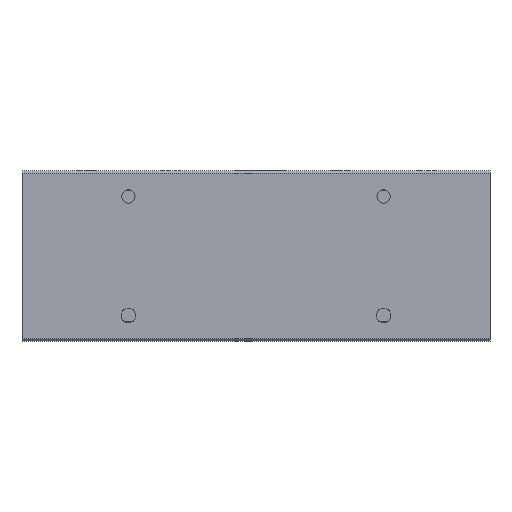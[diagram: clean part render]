
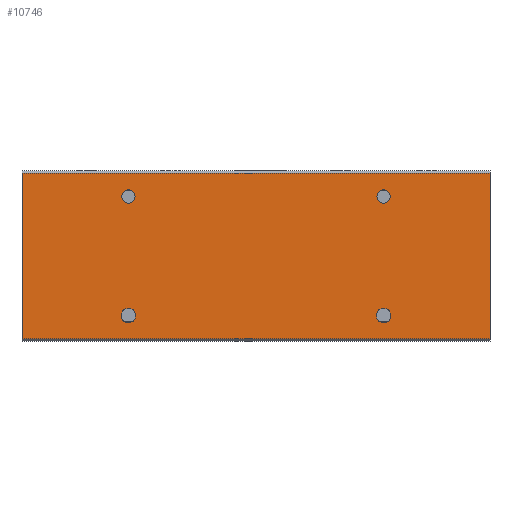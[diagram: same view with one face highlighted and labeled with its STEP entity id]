
A CAD part, front view. The second image highlights one B-rep face of the part: STEP entity #10746.
In plain terms, the highlighted planar face has unit normal (0, -1, 0).
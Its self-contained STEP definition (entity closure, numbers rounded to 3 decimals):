
#393=CIRCLE('',#11386,0.857);
#394=CIRCLE('',#11391,0.857);
#402=CIRCLE('',#11405,0.784);
#403=CIRCLE('',#11408,0.784);
#1547=ORIENTED_EDGE('',*,*,#4412,.F.);
#1548=ORIENTED_EDGE('',*,*,#4410,.F.);
#1549=ORIENTED_EDGE('',*,*,#4393,.F.);
#1550=ORIENTED_EDGE('',*,*,#4389,.F.);
#1551=ORIENTED_EDGE('',*,*,#4366,.T.);
#1552=ORIENTED_EDGE('',*,*,#4805,.F.);
#1553=ORIENTED_EDGE('',*,*,#4349,.F.);
#1554=ORIENTED_EDGE('',*,*,#4804,.T.);
#4349=EDGE_CURVE('',#5988,#5989,#7101,.T.);
#4366=EDGE_CURVE('',#6006,#6005,#7118,.T.);
#4389=EDGE_CURVE('',#6024,#6024,#393,.T.);
#4393=EDGE_CURVE('',#6027,#6027,#394,.T.);
#4410=EDGE_CURVE('',#6039,#6039,#402,.T.);
#4412=EDGE_CURVE('',#6040,#6040,#403,.T.);
#4804=EDGE_CURVE('',#5988,#6006,#7282,.T.);
#4805=EDGE_CURVE('',#5989,#6005,#7283,.T.);
#5988=VERTEX_POINT('',#16237);
#5989=VERTEX_POINT('',#16239);
#6005=VERTEX_POINT('',#16272);
#6006=VERTEX_POINT('',#16274);
#6024=VERTEX_POINT('',#16318);
#6027=VERTEX_POINT('',#16326);
#6039=VERTEX_POINT('',#16358);
#6040=VERTEX_POINT('',#16362);
#7101=LINE('',#16238,#8068);
#7118=LINE('',#16273,#8085);
#7282=LINE('',#17144,#8249);
#7283=LINE('',#17146,#8250);
#8068=VECTOR('',#12684,1000.);
#8085=VECTOR('',#12703,1000.);
#8249=VECTOR('',#13437,1000.);
#8250=VECTOR('',#13440,1000.);
#9067=EDGE_LOOP('',(#1547));
#9068=EDGE_LOOP('',(#1548));
#9069=EDGE_LOOP('',(#1549));
#9070=EDGE_LOOP('',(#1550));
#9071=EDGE_LOOP('',(#1551,#1552,#1553,#1554));
#9791=FACE_BOUND('',#9067,.T.);
#9792=FACE_BOUND('',#9068,.T.);
#9793=FACE_BOUND('',#9069,.T.);
#9794=FACE_BOUND('',#9070,.T.);
#9795=FACE_BOUND('',#9071,.T.);
#10476=PLANE('',#11666);
#10746=ADVANCED_FACE('',(#9791,#9792,#9793,#9794,#9795),#10476,.F.);
#11386=AXIS2_PLACEMENT_3D('',#16317,#12734,#12735);
#11391=AXIS2_PLACEMENT_3D('',#16325,#12744,#12745);
#11405=AXIS2_PLACEMENT_3D('',#16357,#12778,#12779);
#11408=AXIS2_PLACEMENT_3D('',#16361,#12784,#12785);
#11666=AXIS2_PLACEMENT_3D('',#17145,#13438,#13439);
#12684=DIRECTION('',(0.,0.,-1.));
#12703=DIRECTION('',(0.,0.,-1.));
#12734=DIRECTION('',(0.,-1.,0.));
#12735=DIRECTION('',(0.,0.,-1.));
#12744=DIRECTION('',(0.,-1.,0.));
#12745=DIRECTION('',(0.,0.,-1.));
#12778=DIRECTION('',(0.,-1.,0.));
#12779=DIRECTION('',(0.,0.,-1.));
#12784=DIRECTION('',(0.,-1.,0.));
#12785=DIRECTION('',(0.,0.,-1.));
#13437=DIRECTION('',(-1.,0.,0.));
#13438=DIRECTION('',(0.,1.,0.));
#13439=DIRECTION('',(0.,0.,1.));
#13440=DIRECTION('',(-1.,0.,0.));
#16237=CARTESIAN_POINT('',(55.,0.,9.7));
#16238=CARTESIAN_POINT('',(55.,0.,9.7));
#16239=CARTESIAN_POINT('',(55.,0.,-9.7));
#16272=CARTESIAN_POINT('',(0.,0.,-9.7));
#16273=CARTESIAN_POINT('',(0.,0.,9.7));
#16274=CARTESIAN_POINT('',(0.,0.,9.7));
#16317=CARTESIAN_POINT('',(12.5,0.,-7.));
#16318=CARTESIAN_POINT('',(12.5,0.,-7.857));
#16325=CARTESIAN_POINT('',(42.5,0.,-7.));
#16326=CARTESIAN_POINT('',(42.5,0.,-7.857));
#16357=CARTESIAN_POINT('',(12.5,0.,7.));
#16358=CARTESIAN_POINT('',(12.5,0.,6.217));
#16361=CARTESIAN_POINT('',(42.5,0.,7.));
#16362=CARTESIAN_POINT('',(42.5,0.,6.217));
#17144=CARTESIAN_POINT('',(55.,0.,9.7));
#17145=CARTESIAN_POINT('',(55.,0.,9.7));
#17146=CARTESIAN_POINT('',(55.,0.,-9.7));
